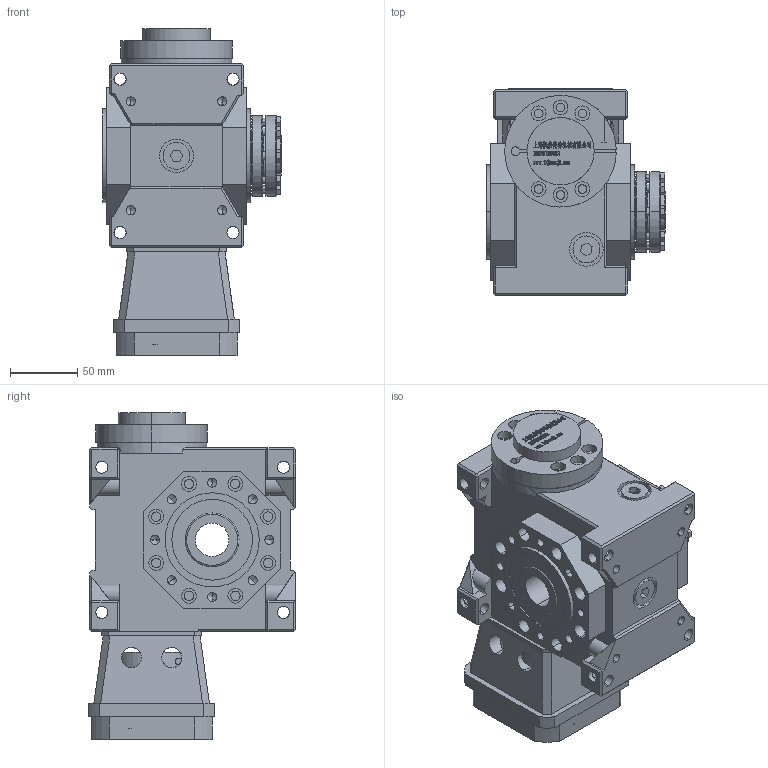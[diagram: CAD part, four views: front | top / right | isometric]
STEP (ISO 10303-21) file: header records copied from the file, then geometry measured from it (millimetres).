
FILE_DESCRIPTION (( 'STEP AP203' ), '1' );
FILE_NAME ('FXLB045-(5~90)-C1-19-70-90-M6.step', '2022-11-06T03:45:28', ( '' ), ( '' ), 'SwSTEP 2.0', 'SolidWorks 2020', '' );
FILE_SCHEMA (( 'CONFIG_CONTROL_DESIGN' ));
Length unit declared in the file: millimetre
Products named in the file (9): JDLB050-C1______-30-60-18.step; FXLB045-(5~90)-C1-19-70-90-M6; FXLB045-(5~90)-C1-19-70-90-M6.step; JDLB050-C1________25.step; ST90-70-90-M6____________.step; JDLB045-CR____.step; JDLB045-ST94________.step; ______BD56-60-19-15____.step; 錨璃146^FXLB045-(5~90)-C1-19-70-90-M6
Assembly tree (8 placements, depth 3):
  FXLB045-(5~90)-C1-19-70-90-M6
    FXLB045-(5~90)-C1-19-70-90-M6.step
      JDLB045-CR____.step
      JDLB045-ST94________.step
      ST90-70-90-M6____________.step
      ______BD56-60-19-15____.step
      JDLB050-C1________25.step
      JDLB050-C1______-30-60-18.step
    錨璃146^FXLB045-(5~90)-C1-19-70-90-M6
Bounding box: 133 x 154 x 243.2 mm (x, y, z)
Volume: 2204015.4 mm3; surface area: 338993.2 mm2
Topology: 85 solids, 85 shells, 2787 faces, 7297 edges, 4765 vertices
Faces by surface type: plane 1633, bspline 576, cylinder 454, cone 86, torus 38
Entity records: 113468 total; most frequent: CARTESIAN_POINT 47272, ORIENTED_EDGE 14470, DIRECTION 11470, EDGE_CURVE 7235, LINE 4964, VECTOR 4964, VERTEX_POINT 4765, AXIS2_PLACEMENT_3D 3253
